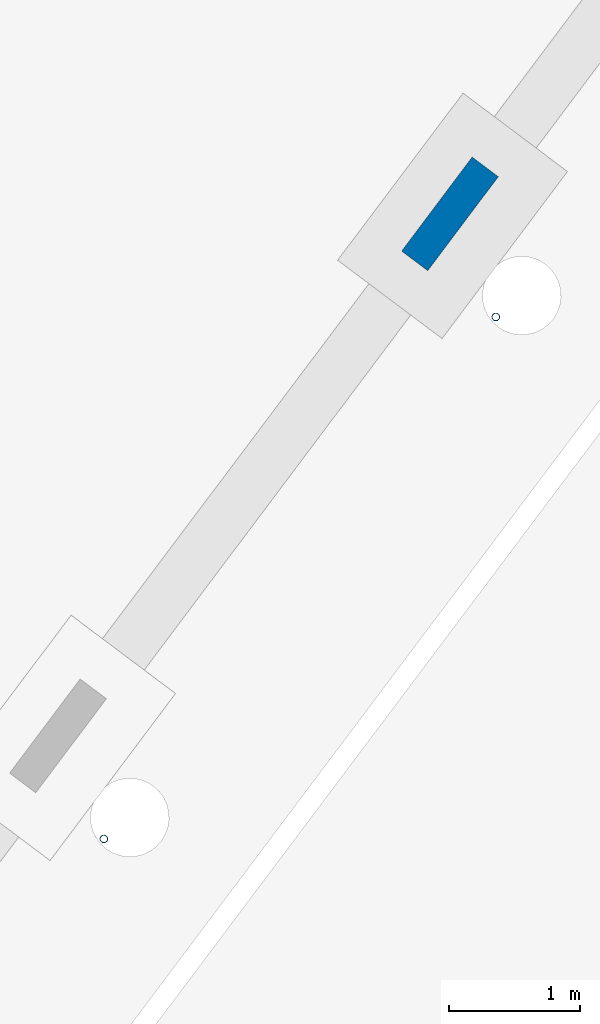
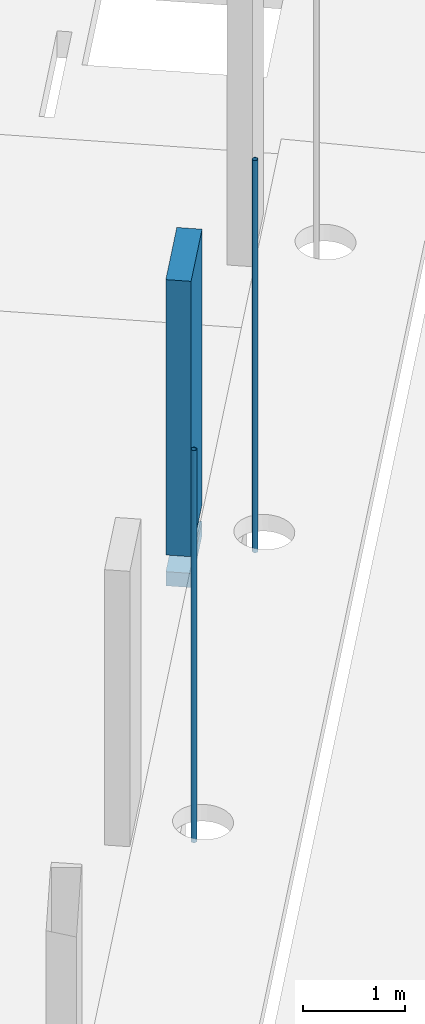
# One storey, part 10 of 24: 3 columns.
"""IFC2X3 building model written with IfcOpenShell, lengths in metres."""

from ifc_helpers import new_model, entity, si_unit, converted_unit, derived_unit, direction, frame, frame_2d, origin, origin_2d_with_axis, place, context, subcontext, project, spatial, rectangle, hollow_circle, extrude, source, transform, mapped, material, type_object, type_shapes, element, save


model = new_model("IFC2X3")

# Units and contexts
model_context = context("Model", 3, precision=1e-05, world=origin(), true_north=direction((6.123031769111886e-17, 1.0)))
body_context = subcontext(model_context, "Body", "Model", "MODEL_VIEW")
ifc_project = project(units=[si_unit("LENGTHUNIT", "METRE"), si_unit("AREAUNIT", "SQUARE_METRE"), si_unit("VOLUMEUNIT", "CUBIC_METRE"), converted_unit("PLANEANGLEUNIT", "DEGREE", entity("IfcRatioMeasure", 0.017453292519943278), si_unit("PLANEANGLEUNIT", "RADIAN"), dimensions=[0, 0, 0, 0, 0, 0, 0]), si_unit("MASSUNIT", "GRAM", prefix="KILO"), derived_unit("MASSDENSITYUNIT", [(si_unit("MASSUNIT", "GRAM", prefix="KILO"), 1), (si_unit("LENGTHUNIT", "METRE"), -3)]), derived_unit("IONCONCENTRATIONUNIT", [(si_unit("MASSUNIT", "GRAM", prefix="KILO"), 1), (si_unit("LENGTHUNIT", "METRE"), -3)]), derived_unit("MOMENTOFINERTIAUNIT", [(si_unit("LENGTHUNIT", "METRE"), 4)]), si_unit("TIMEUNIT", "SECOND"), si_unit("FREQUENCYUNIT", "HERTZ"), si_unit("THERMODYNAMICTEMPERATUREUNIT", "DEGREE_CELSIUS"), derived_unit("THERMALTRANSMITTANCEUNIT", [(si_unit("MASSUNIT", "GRAM", prefix="KILO"), 1), (si_unit("THERMODYNAMICTEMPERATUREUNIT", "KELVIN"), -1), (si_unit("TIMEUNIT", "SECOND"), -3)]), derived_unit("THERMALCONDUCTANCEUNIT", [(si_unit("MASSUNIT", "GRAM", prefix="KILO"), 1), (si_unit("THERMODYNAMICTEMPERATUREUNIT", "KELVIN"), -1), (si_unit("TIMEUNIT", "SECOND"), -3), (si_unit("LENGTHUNIT", "METRE"), 1)]), derived_unit("VOLUMETRICFLOWRATEUNIT", [(si_unit("LENGTHUNIT", "METRE"), 3), (si_unit("TIMEUNIT", "SECOND"), -1)]), derived_unit("MASSFLOWRATEUNIT", [(si_unit("MASSUNIT", "GRAM", prefix="KILO"), 1), (si_unit("TIMEUNIT", "SECOND"), -1)]), derived_unit("ROTATIONALFREQUENCYUNIT", [(si_unit("TIMEUNIT", "SECOND"), -1)]), si_unit("ELECTRICCURRENTUNIT", "AMPERE"), si_unit("ELECTRICVOLTAGEUNIT", "VOLT"), si_unit("POWERUNIT", "WATT"), si_unit("FORCEUNIT", "NEWTON", prefix="KILO"), si_unit("ILLUMINANCEUNIT", "LUX"), si_unit("LUMINOUSFLUXUNIT", "LUMEN"), si_unit("LUMINOUSINTENSITYUNIT", "CANDELA"), derived_unit("USERDEFINED", [(si_unit("MASSUNIT", "GRAM", prefix="KILO"), -1), (si_unit("LENGTHUNIT", "METRE"), -2), (si_unit("TIMEUNIT", "SECOND"), 3), (si_unit("LUMINOUSFLUXUNIT", "LUMEN"), 1)]), derived_unit("USERDEFINED", [(si_unit("MASSUNIT", "GRAM", prefix="KILO"), 1), (si_unit("TIMEUNIT", "SECOND"), -3), (si_unit("LENGTHUNIT", "METRE"), 3), (si_unit("ELECTRICCURRENTUNIT", "AMPERE"), -2)]), derived_unit("SOUNDPOWERUNIT", [(si_unit("MASSUNIT", "GRAM", prefix="KILO"), 1), (si_unit("TIMEUNIT", "SECOND"), -3), (si_unit("LENGTHUNIT", "METRE"), 2)]), derived_unit("SOUNDPRESSUREUNIT", [(si_unit("MASSUNIT", "GRAM", prefix="KILO"), 1), (si_unit("LENGTHUNIT", "METRE"), -1), (si_unit("TIMEUNIT", "SECOND"), -2)]), derived_unit("LINEARVELOCITYUNIT", [(si_unit("LENGTHUNIT", "METRE"), 1), (si_unit("TIMEUNIT", "SECOND"), -1)]), si_unit("PRESSUREUNIT", "PASCAL"), derived_unit("USERDEFINED", [(si_unit("MASSUNIT", "GRAM", prefix="KILO"), 1), (si_unit("LENGTHUNIT", "METRE"), -2), (si_unit("TIMEUNIT", "SECOND"), -2)]), derived_unit("LINEARFORCEUNIT", [(si_unit("MASSUNIT", "GRAM", prefix="KILO"), 1), (si_unit("TIMEUNIT", "SECOND"), -2)]), derived_unit("PLANARFORCEUNIT", [(si_unit("MASSUNIT", "GRAM", prefix="KILO"), 1), (si_unit("LENGTHUNIT", "METRE"), -1), (si_unit("TIMEUNIT", "SECOND"), -2)]), derived_unit("SPECIFICHEATCAPACITYUNIT", [(si_unit("THERMODYNAMICTEMPERATUREUNIT", "KELVIN"), -1), (si_unit("LENGTHUNIT", "METRE"), 2), (si_unit("TIMEUNIT", "SECOND"), -2)]), derived_unit("HEATINGVALUEUNIT", [(si_unit("LENGTHUNIT", "METRE"), 2), (si_unit("TIMEUNIT", "SECOND"), -2)]), derived_unit("VAPORPERMEABILITYUNIT", [(si_unit("LENGTHUNIT", "METRE"), -1), (si_unit("TIMEUNIT", "SECOND"), 1)]), derived_unit("DYNAMICVISCOSITYUNIT", [(si_unit("MASSUNIT", "GRAM", prefix="KILO"), 1), (si_unit("TIMEUNIT", "SECOND"), -1), (si_unit("LENGTHUNIT", "METRE"), -1)]), derived_unit("THERMALEXPANSIONCOEFFICIENTUNIT", [(si_unit("THERMODYNAMICTEMPERATUREUNIT", "KELVIN"), -1)]), derived_unit("MODULUSOFELASTICITYUNIT", [(si_unit("MASSUNIT", "GRAM", prefix="KILO"), 1), (si_unit("LENGTHUNIT", "METRE"), -1), (si_unit("TIMEUNIT", "SECOND"), -2)]), derived_unit("ISOTHERMALMOISTURECAPACITYUNIT", [(si_unit("LENGTHUNIT", "METRE"), 3), (si_unit("MASSUNIT", "GRAM", prefix="KILO"), -1)]), derived_unit("MOISTUREDIFFUSIVITYUNIT", [(si_unit("TIMEUNIT", "SECOND"), -1), (si_unit("LENGTHUNIT", "METRE"), 2)])], contexts=[model_context])

# Site, building, storey
site_placement = place(None, origin())
site = spatial("IfcSite", under=ifc_project, at=site_placement, Name="Default", CompositionType="ELEMENT")
building_placement = place(site_placement, frame((0.0, 0.0, 235.0), z_axis=(0.0, 0.0, 1.0), x_axis=(-0.7996477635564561, 0.6004693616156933, 0.0)))
building = spatial("IfcBuilding", under=site, at=building_placement, CompositionType="ELEMENT")
storey_placement = place(building_placement, origin())
storey = spatial("IfcBuildingStorey", under=building, at=storey_placement, Name="P0- Escola", CompositionType="ELEMENT", Elevation=0.0)

# Columns
ifc_material_1 = material(Name="_Formigó- T1- STR")
column_type_1 = type_object("IfcColumnType", Name="STR- P- Formigó- Rectangular- T1:25x90cm", PredefinedType="COLUMN", material=ifc_material_1)
shared_shape_1 = source(origin(), body_context, "Body", "SweptSolid", [
    extrude(rectangle(XDim=0.899999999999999, YDim=0.25000000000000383, at=origin_2d_with_axis()), frame((41.22014768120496, -29.915191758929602, -0.57), z_axis=(0.0, 0.0, 1.0), x_axis=(0.0, -1.0, 0.0)), (0.0, 0.0, 1.0), 0.16999999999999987),
    extrude(rectangle(XDim=0.899999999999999, YDim=0.25000000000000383, at=origin_2d_with_axis()), frame((41.22014768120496, -29.915191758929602, -0.2), z_axis=(0.0, 0.0, 1.0), x_axis=(0.0, -1.0, 0.0)), (0.0, 0.0, 1.0), 3.3000000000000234),
])
type_shapes(column_type_1, [shared_shape_1])
column_placement = place(storey_placement, origin())
element("IfcColumn", 1, at=column_placement, inside=storey, type_object=column_type_1, material=ifc_material_1, Name="STR- P- Formigó- Rectangular- T1:25x90cm", ObjectType="STR- P- Formigó- Rectangular- T1:25x90cm", context=body_context, shape_type="MappedRepresentation", body=[
    mapped(shared_shape_1, transform((0.0, 0.0, 0.0), scale=1.0)),
])
ifc_material_2 = material(Name="Metal - Acero - 345 MPa")
column_type_2 = type_object("IfcColumnType", Name="STR- P- Acer- CHS- Circular- T1:60.3 x 3CHS", PredefinedType="COLUMN", material=ifc_material_2)
shared_shape_2 = source(origin(), body_context, "Body", "SweptSolid", [
    extrude(hollow_circle(Radius=0.03014999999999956, WallThickness=0.0029999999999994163, at=frame_2d((-4.81877898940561e-19, 4.854464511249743e-17), x_axis=(1.0, 0.0))), frame((0.0, 0.0, -0.1)), (0.0, 0.0, 1.0), 4.700000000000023),
])
type_shapes(column_type_2, [shared_shape_2])
for number, where, name in (
    (2, (40.4651476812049, -24.49519175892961, 0.0), "STR- P- Acer- CHS- Circular- T1:60.3 x 3CHS"),
    (3, (40.4651476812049, -29.495191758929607, 0.0), "STR- P- Acer- CHS- Circular- T1:60.3 x 3CHS"),
):
    element("IfcColumn", number, at=place(storey_placement, frame(where)), inside=storey, type_object=column_type_2, material=ifc_material_2, Name=name, ObjectType="STR- P- Acer- CHS- Circular- T1:60.3 x 3CHS", context=body_context, shape_type="MappedRepresentation", body=[
        mapped(shared_shape_2, transform((0.0, 0.0, 0.0), scale=1.0)),
    ])

save(model, "model.ifc")
